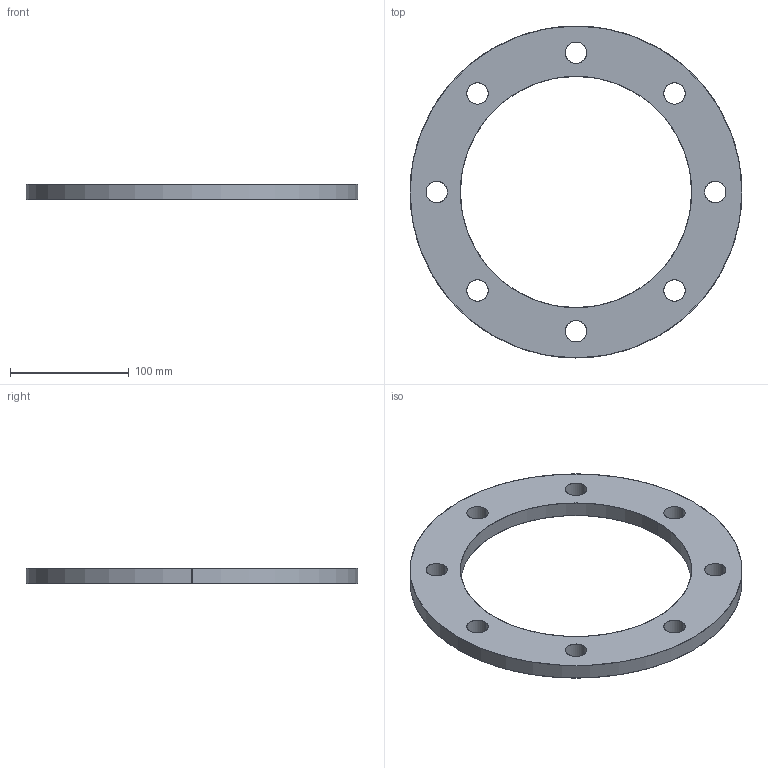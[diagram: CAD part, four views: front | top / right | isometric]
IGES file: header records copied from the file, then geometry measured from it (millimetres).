
Start section: SolidWorks IGES file using analytic representation for surfaces
Global section: file name: \\DOWNSHIFT.fusion-group.net\FR$\hwegrzynska\Desktop\Fusion Plast Australia- drawings\backing rings\AS4087 PN16 - Figure B7 Stainless Backing Rings\BIM\BRD180PN16SS.IGS; native system: SolidWorks 2019; preprocessor: SolidWorks 2019; author: hwegrzynska; date: 210514.130650; units: millimetre
Bounding box: 280 x 280 x 13 mm (x, y, z)
Surface area: 84629.8 mm2 (no closed solid volume)
Topology: 0 solids, 0 shells, 22 faces, 848 edges, 848 vertices
Faces by surface type: revolution 20, bspline 2
